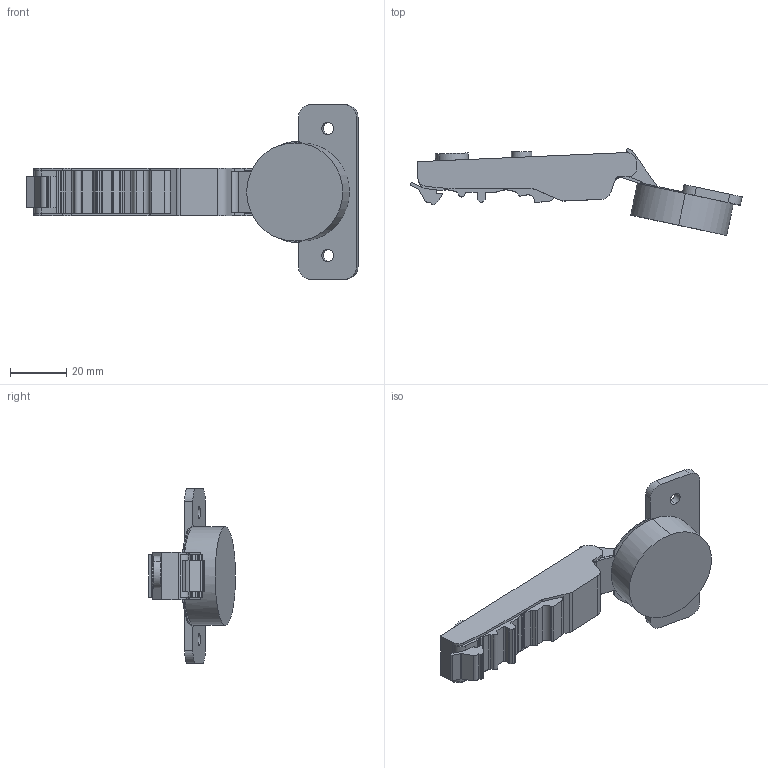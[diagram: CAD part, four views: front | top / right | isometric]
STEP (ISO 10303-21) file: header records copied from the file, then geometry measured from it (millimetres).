
FILE_DESCRIPTION (( 'STEP AP214' ), '1' );
FILE_NAME ('C82A675FA-Open.STEP', '2025-07-21T06:05:20', ( '微软用户' ), ( '微软中国' ), 'SwSTEP 2.0', 'SolidWorks 2021', '' );
FILE_SCHEMA (( 'AUTOMOTIVE_DESIGN' ));
Length unit declared in the file: millimetre
Products named in the file (1): C82A675FA-Open
Bounding box: 117.73 x 30.84 x 61.96 mm (x, y, z)
Volume: 33159.7 mm3; surface area: 11002.6 mm2
Topology: 1 solids, 1 shells, 149 faces, 435 edges, 290 vertices
Faces by surface type: plane 75, cylinder 74
Entity records: 5026 total; most frequent: CARTESIAN_POINT 902, DIRECTION 879, ORIENTED_EDGE 870, EDGE_CURVE 435, AXIS2_PLACEMENT_3D 303, VERTEX_POINT 290, LINE 273, VECTOR 273
